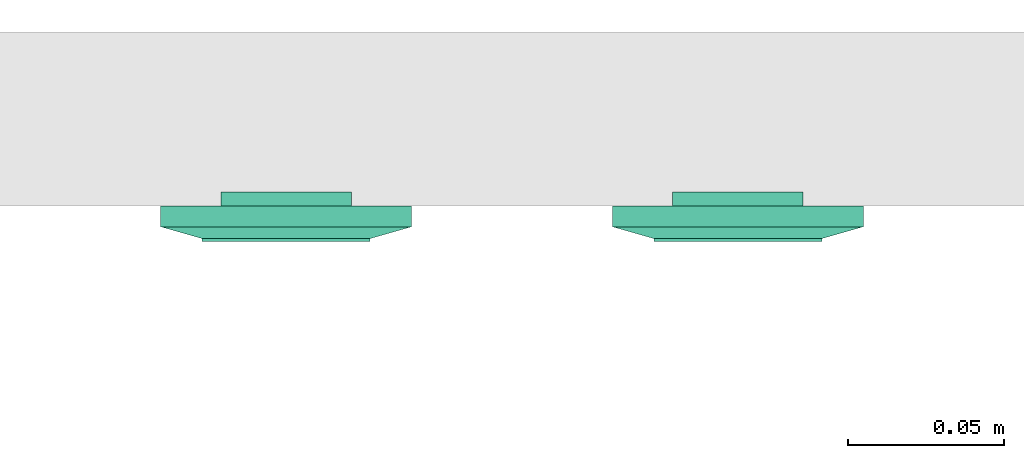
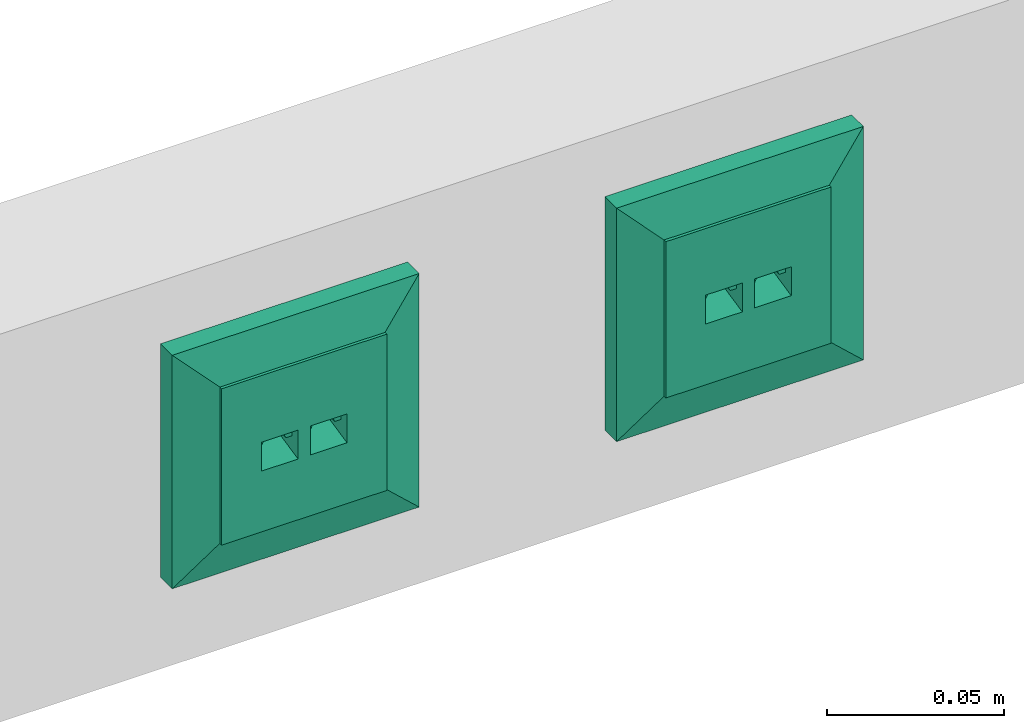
# One storey, part 78 of 166: 2 flow terminals.
"""IFC2X3 building model written with IfcOpenShell, lengths in metres."""

from ifc_helpers import new_model, entity, si_unit, converted_unit, derived_unit, direction, frame, origin, place, context, subcontext, project, spatial, faceted_brep, source, transform, mapped, type_object, type_shapes, element, save


model = new_model("IFC2X3")

# Units and contexts
model_context = context("Model", 3, precision=1e-05, world=origin(), true_north=direction((6.12303176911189e-17, 1.0)))
body_context = subcontext(model_context, "Body", "Model", "MODEL_VIEW")
ifc_project = project(units=[si_unit("LENGTHUNIT", "METRE"), si_unit("AREAUNIT", "SQUARE_METRE"), si_unit("VOLUMEUNIT", "CUBIC_METRE"), converted_unit("PLANEANGLEUNIT", "DEGREE", entity("IfcRatioMeasure", 0.0174532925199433), si_unit("PLANEANGLEUNIT", "RADIAN"), dimensions=[0, 0, 0, 0, 0, 0, 0]), si_unit("MASSUNIT", "GRAM", prefix="KILO"), derived_unit("MASSDENSITYUNIT", [(si_unit("MASSUNIT", "GRAM", prefix="KILO"), 1), (si_unit("LENGTHUNIT", "METRE"), -3)]), si_unit("TIMEUNIT", "SECOND"), si_unit("FREQUENCYUNIT", "HERTZ"), si_unit("THERMODYNAMICTEMPERATUREUNIT", "DEGREE_CELSIUS"), derived_unit("THERMALTRANSMITTANCEUNIT", [(si_unit("MASSUNIT", "GRAM", prefix="KILO"), 1), (si_unit("THERMODYNAMICTEMPERATUREUNIT", "KELVIN"), -1), (si_unit("TIMEUNIT", "SECOND"), -3)]), derived_unit("VOLUMETRICFLOWRATEUNIT", [(si_unit("LENGTHUNIT", "METRE"), 3), (si_unit("TIMEUNIT", "SECOND"), -1)]), si_unit("ELECTRICCURRENTUNIT", "AMPERE"), si_unit("ELECTRICVOLTAGEUNIT", "VOLT"), si_unit("POWERUNIT", "WATT"), si_unit("FORCEUNIT", "NEWTON"), si_unit("ILLUMINANCEUNIT", "LUX"), si_unit("LUMINOUSFLUXUNIT", "LUMEN"), si_unit("LUMINOUSINTENSITYUNIT", "CANDELA"), derived_unit("USERDEFINED", [(si_unit("MASSUNIT", "GRAM", prefix="KILO"), -1), (si_unit("LENGTHUNIT", "METRE"), -2), (si_unit("TIMEUNIT", "SECOND"), 3), (si_unit("LUMINOUSFLUXUNIT", "LUMEN"), 1)]), derived_unit("LINEARVELOCITYUNIT", [(si_unit("LENGTHUNIT", "METRE"), 1), (si_unit("TIMEUNIT", "SECOND"), -1)]), si_unit("PRESSUREUNIT", "PASCAL"), derived_unit("USERDEFINED", [(si_unit("LENGTHUNIT", "METRE"), -2), (si_unit("MASSUNIT", "GRAM", prefix="KILO"), 1), (si_unit("TIMEUNIT", "SECOND"), -2)])], contexts=[model_context])

# Site, building, storey
site_placement = place(None, origin())
site = spatial("IfcSite", under=ifc_project, at=site_placement, Name="Default", CompositionType="ELEMENT")
building_placement = place(site_placement, origin())
building = spatial("IfcBuilding", under=site, at=building_placement, CompositionType="ELEMENT")
storey_placement = place(building_placement, frame((0.0, 0.0, 4.27)))
storey = spatial("IfcBuildingStorey", under=building, at=storey_placement, Name="01", CompositionType="ELEMENT", Elevation=4.27)

# Flow terminals
electric_appliance_type = type_object("IfcElectricApplianceType", Name="RJ45 IP20", PredefinedType="NOTDEFINED")
shared_shape = source(origin(), body_context, "Body", "Brep", [
    faceted_brep([(0.00200000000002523, 0.0, 0.00799999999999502), (0.00400000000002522, 0.0, 0.00799999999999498), (0.00500000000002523, 0.00199999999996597, 0.00799999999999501), (0.0110000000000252, 0.00199999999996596, 0.00799999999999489), (0.0120000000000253, 0.0, 0.00799999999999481), (0.0140000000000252, 0.0, 0.00799999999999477), (0.0140000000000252, 0.00399999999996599, 0.00799999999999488), (0.00200000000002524, 0.00399999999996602, 0.00799999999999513), (0.00200000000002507, 0.0, 0.0), (0.00200000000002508, 0.00399999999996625, 0.0), (0.0140000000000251, 0.00399999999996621, 0.0), (0.0140000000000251, 0.0, 0.0), (0.0120000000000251, 0.0, 0.0), (0.0110000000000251, 0.00199999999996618, 0.0), (0.00500000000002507, 0.0019999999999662, 0.0), (0.00400000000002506, 0.0, 0.0)], [[[0, 1, 2, 3, 4, 5, 6, 7]], [[8, 9, 10, 11, 12, 13, 14, 15]], [[1, 0, 8, 15]], [[2, 1, 15, 14]], [[3, 2, 14, 13]], [[4, 3, 13, 12]], [[5, 4, 12, 11]], [[6, 5, 11, 10]], [[7, 6, 10, 9]], [[0, 7, 9, 8]]]),
    faceted_brep([(-0.0139999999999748, 0.0, 0.00799999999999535), (-0.0119999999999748, 0.0, 0.00799999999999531), (-0.0109999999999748, 0.00199999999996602, 0.00799999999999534), (-0.00499999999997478, 0.00199999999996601, 0.00799999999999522), (-0.0039999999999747, 0.0, 0.00799999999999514), (-0.00199999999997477, 0.0, 0.0079999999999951), (-0.00199999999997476, 0.00399999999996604, 0.00799999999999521), (-0.0139999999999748, 0.00399999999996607, 0.00799999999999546), (-0.0139999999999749, 0.0, 0.0), (-0.0139999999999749, 0.00399999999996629, 0.0), (-0.00199999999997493, 0.00399999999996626, 0.0), (-0.00199999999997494, 0.0, 0.0), (-0.00399999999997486, 0.0, 0.0), (-0.00499999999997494, 0.00199999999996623, 0.0), (-0.0109999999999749, 0.00199999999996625, 0.0), (-0.0119999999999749, 0.0, 0.0)], [[[0, 1, 2, 3, 4, 5, 6, 7]], [[8, 9, 10, 11, 12, 13, 14, 15]], [[1, 0, 8, 15]], [[2, 1, 15, 14]], [[3, 2, 14, 13]], [[4, 3, 13, 12]], [[5, 4, 12, 11]], [[6, 5, 11, 10]], [[7, 6, 10, 9]], [[0, 7, 9, 8]]]),
    faceted_brep([(0.0140000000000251, 0.00399999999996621, 0.0), (0.00200000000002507, 0.00399999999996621, 0.0), (0.00200000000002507, -0.00350000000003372, 0.0), (0.0140000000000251, -0.00350000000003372, 0.0), (0.0140000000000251, 0.00399999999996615, 0.00199999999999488), (0.00200000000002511, 0.00399999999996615, 0.00199999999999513), (0.00200000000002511, -0.00393859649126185, 0.00199999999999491), (0.0140000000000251, -0.00393859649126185, 0.00199999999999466), (0.0210000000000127, 0.0209999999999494, 0.00199999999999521), (-0.0209999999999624, 0.0209999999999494, 0.00199999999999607), (-0.0209999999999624, -0.0210000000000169, 0.00199999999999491), (0.0210000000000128, -0.0210000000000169, 0.00199999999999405), (-0.0139999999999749, 0.0039999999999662, 0.00199999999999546), (-0.0019999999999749, 0.0039999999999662, 0.00199999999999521), (-0.00199999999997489, -0.0039385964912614, 0.00199999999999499), (-0.0139999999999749, -0.00393859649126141, 0.00199999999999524), (0.0210000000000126, 0.0209999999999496, -0.00460000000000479), (0.0210000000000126, -0.0210000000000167, -0.00460000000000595), (-0.0209999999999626, -0.0210000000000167, -0.00460000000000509), (-0.0209999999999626, 0.0209999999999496, -0.00460000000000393), (-0.00199999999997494, 0.00399999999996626, 0.0), (-0.0139999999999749, 0.00399999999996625, 0.0), (-0.0139999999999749, -0.00350000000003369, 0.0), (-0.00199999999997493, -0.00350000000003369, 0.0)], [[[0, 1, 2, 3]], [[1, 0, 4, 5]], [[2, 1, 5, 6]], [[3, 2, 6, 7]], [[0, 3, 7, 4]], [[5, 4, 7, 6], [8, 9, 10, 11], [12, 13, 14, 15]], [[16, 17, 18, 19]], [[9, 8, 16, 19]], [[10, 9, 19, 18]], [[11, 10, 18, 17]], [[8, 11, 17, 16]], [[20, 21, 22, 23]], [[21, 20, 13, 12]], [[22, 21, 12, 15]], [[23, 22, 15, 14]], [[20, 23, 14, 13]]], outer=[[True], [True], [True], [True], [True], [False, True, False], [True], [True], [True], [True], [True], [True], [True], [True], [True], [True]]),
    faceted_brep([(0.0270000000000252, 0.026999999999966, 0.0113999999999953), (-0.0269999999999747, 0.026999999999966, 0.0113999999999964), (-0.0269999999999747, -0.0270000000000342, 0.0113999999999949), (0.0270000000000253, -0.0270000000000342, 0.0113999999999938), (0.0020000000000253, 0.00399999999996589, 0.0113999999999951), (0.0140000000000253, 0.00399999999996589, 0.0113999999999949), (0.0140000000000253, -0.00600000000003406, 0.0113999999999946), (0.0020000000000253, -0.00600000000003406, 0.0113999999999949), (-0.0139999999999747, 0.00399999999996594, 0.0113999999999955), (-0.00199999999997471, 0.00399999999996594, 0.0113999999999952), (-0.00199999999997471, -0.0060000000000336, 0.0113999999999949), (-0.0139999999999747, -0.00600000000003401, 0.0113999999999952), (0.0270000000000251, 0.0269999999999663, 0.00199999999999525), (0.0270000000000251, -0.0270000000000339, 0.00199999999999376), (-0.0269999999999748, -0.0270000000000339, 0.00199999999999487), (-0.0269999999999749, 0.0269999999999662, 0.00199999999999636), (0.0140000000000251, 0.00399999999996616, 0.00199999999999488), (0.00200000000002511, 0.00399999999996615, 0.00199999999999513), (0.00200000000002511, -0.00393859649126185, 0.00199999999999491), (0.0140000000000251, -0.00393859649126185, 0.00199999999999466), (-0.00199999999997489, 0.0039999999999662, 0.00199999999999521), (-0.0139999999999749, 0.0039999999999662, 0.00199999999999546), (-0.0139999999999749, -0.0039385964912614, 0.00199999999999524), (-0.00199999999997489, -0.0039385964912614, 0.00199999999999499)], [[[0, 1, 2, 3], [4, 5, 6, 7], [8, 9, 10, 11]], [[12, 13, 14, 15], [16, 17, 18, 19], [20, 21, 22, 23]], [[1, 0, 12, 15]], [[2, 1, 15, 14]], [[3, 2, 14, 13]], [[0, 3, 13, 12]], [[4, 17, 16, 5]], [[17, 4, 7, 18]], [[18, 7, 6, 19]], [[5, 16, 19, 6]], [[8, 21, 20, 9]], [[21, 8, 11, 22]], [[22, 11, 10, 23]], [[9, 20, 23, 10]]]),
    faceted_brep([(0.027000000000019, 0.0269999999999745, 0.00659999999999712), (-0.0269999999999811, 0.0269999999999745, 0.00659999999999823), (-0.026999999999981, -0.0270000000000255, 0.00659999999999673), (0.027000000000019, -0.0270000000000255, 0.00659999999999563), (0.040350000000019, 0.0403499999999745, 0.00659999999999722), (0.040350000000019, -0.0403500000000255, 0.00659999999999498), (-0.0403499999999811, -0.0403500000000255, 0.00659999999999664), (-0.0403499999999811, 0.0403499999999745, 0.00659999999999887), (-0.026999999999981, 0.0269999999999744, 0.0103999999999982), (0.027000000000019, 0.0269999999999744, 0.0103999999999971), (-0.026999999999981, -0.0270000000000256, 0.0103999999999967), (0.027000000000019, -0.0270000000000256, 0.0103999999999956)], [[[0, 1, 2, 3], [4, 5, 6, 7]], [[4, 7, 8, 9]], [[7, 6, 10, 8]], [[6, 5, 11, 10]], [[5, 4, 9, 11]], [[0, 9, 8, 1]], [[1, 8, 10, 2]], [[2, 10, 11, 3]], [[9, 0, 3, 11]]], outer=[[False, True], [True], [True], [True], [True], [True], [True], [True], [True]]),
    faceted_brep([(0.040350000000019, 0.0403499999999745, 0.00659999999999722), (-0.0403499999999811, 0.0403499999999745, 0.00659999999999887), (-0.0403499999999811, -0.0403500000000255, 0.00659999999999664), (0.040350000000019, -0.0403500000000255, 0.00659999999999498), (-0.0269999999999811, 0.0269999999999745, 0.00659999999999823), (0.0270000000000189, 0.0269999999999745, 0.00659999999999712), (0.0270000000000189, -0.0270000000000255, 0.00659999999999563), (-0.0269999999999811, -0.0270000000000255, 0.00659999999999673), (0.0403500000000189, 0.0403499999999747, 0.0), (0.0403500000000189, -0.0403500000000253, 0.0), (-0.0403499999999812, -0.0403500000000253, 0.0), (-0.0403499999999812, 0.0403499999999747, 0.0), (0.0270000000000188, 0.0269999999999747, 0.0), (-0.0269999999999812, 0.0269999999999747, 0.0), (-0.0269999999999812, -0.0270000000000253, 0.0), (0.0270000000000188, -0.0270000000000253, 0.0)], [[[0, 1, 2, 3], [4, 5, 6, 7]], [[8, 9, 10, 11], [12, 13, 14, 15]], [[1, 0, 8, 11]], [[2, 1, 11, 10]], [[3, 2, 10, 9]], [[0, 3, 9, 8]], [[12, 5, 4, 13]], [[13, 4, 7, 14]], [[14, 7, 6, 15]], [[5, 12, 15, 6]]]),
])
type_shapes(electric_appliance_type, [shared_shape])
for number, where, z_axis, x_axis in (
    (1, (48.1268729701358, -189.956744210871, 4.70800000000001), (0.0, -1.0, 0.0), (1.0, 0.0, 0.0)),
    (2, (47.9817139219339, -189.956744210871, 4.70800000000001), (0.0, -1.0, 0.0), (1.0, 0.0, 0.0)),
):
    element("IfcFlowTerminal", number, at=place(building_placement, frame(where, z_axis=z_axis, x_axis=x_axis)), inside=storey, type_object=electric_appliance_type, Name="INT_Prise RJ45:RJ45 IP20", ObjectType="INT_Prise RJ45:RJ45 IP20", context=body_context, shape_type="MappedRepresentation", body=[
        mapped(shared_shape, transform((0.0, 0.0, 0.0), scale=1.0)),
    ])

save(model, "model.ifc")
